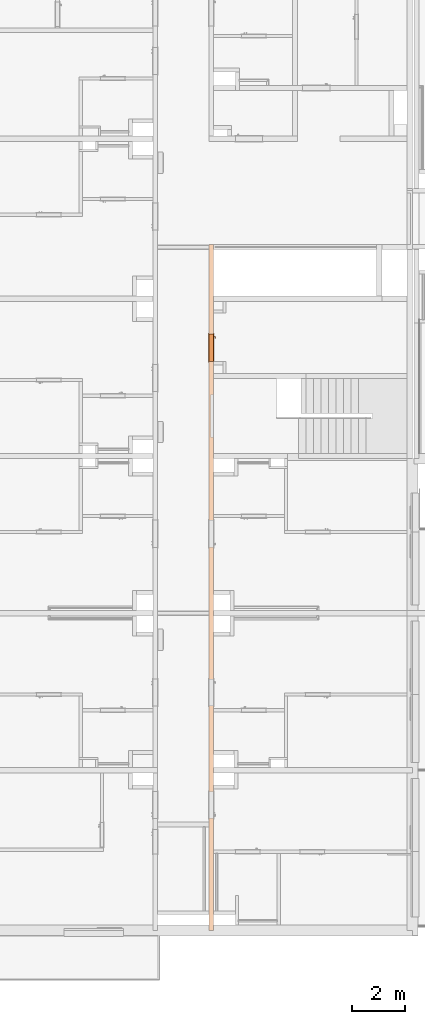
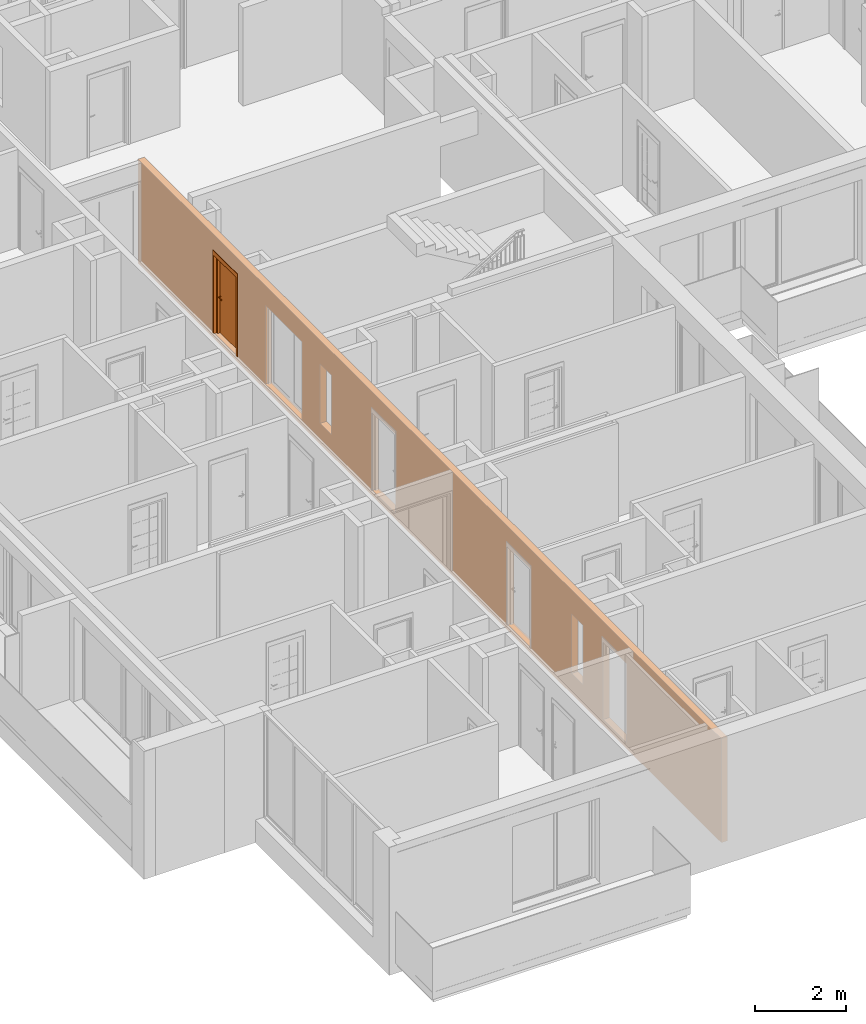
# One storey, part 12 of 67: 1 proxy, 7 openings, plus 1 element that does not belong to this part.
"""IFC2X3 building model written with IfcOpenShell, lengths in millimetres."""

from ifc_helpers import new_model, entity, si_unit, converted_unit, derived_unit, money_unit, direction, frame, origin_with_axes, origin_2d_with_axis, place, context, subcontext, project, spatial, rectangle, extrude, open_shell, faceted_brep, surface_model, source, transform, mapped, material, type_object, element, fill, save


model = new_model("IFC2X3")

# Units and contexts
model_context = context("Model", 3, precision=0.01, world=origin_with_axes(), true_north=direction((0.34421633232, 0.938890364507)))
body_context = subcontext(model_context, "Body", "Model", "MODEL_VIEW")
ifc_project = project(units=[si_unit("LENGTHUNIT", "METRE", prefix="MILLI"), si_unit("AREAUNIT", "SQUARE_METRE"), si_unit("VOLUMEUNIT", "CUBIC_METRE"), converted_unit("PLANEANGLEUNIT", "DEGREE", entity("IfcPlaneAngleMeasure", 0.0174532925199), si_unit("PLANEANGLEUNIT", "RADIAN"), dimensions=[0, 0, 0, 0, 0, 0, 0]), si_unit("SOLIDANGLEUNIT", "STERADIAN"), money_unit("USD"), converted_unit("TIMEUNIT", "Year", entity("IfcTimeMeasure", 31556926.0), si_unit("TIMEUNIT", "SECOND"), dimensions=[0, 0, 1, 0, 0, 0, 0]), si_unit("MASSUNIT", "GRAM", prefix="KILO"), si_unit("THERMODYNAMICTEMPERATUREUNIT", "DEGREE_CELSIUS"), si_unit("LUMINOUSINTENSITYUNIT", "LUMEN"), si_unit("ENERGYUNIT", "JOULE", prefix="MEGA"), derived_unit("THERMALCONDUCTANCEUNIT", [(si_unit("POWERUNIT", "WATT"), 1), (si_unit("LENGTHUNIT", "METRE"), -1), (si_unit("THERMODYNAMICTEMPERATUREUNIT", "KELVIN"), -1)]), derived_unit("SPECIFICHEATCAPACITYUNIT", [(si_unit("ENERGYUNIT", "JOULE"), 1), (si_unit("MASSUNIT", "GRAM", prefix="KILO"), -1), (si_unit("THERMODYNAMICTEMPERATUREUNIT", "KELVIN"), -1)]), derived_unit("MASSDENSITYUNIT", [(si_unit("MASSUNIT", "GRAM", prefix="KILO"), 1), (si_unit("VOLUMEUNIT", "CUBIC_METRE"), -1)])], contexts=[model_context])

# Site, building, storey
site_placement = place(None, origin_with_axes())
site = spatial("IfcSite", under=ifc_project, at=site_placement, Name="USTRONIE MORSKIE", CompositionType="ELEMENT")
building_placement = place(site_placement, origin_with_axes())
building = spatial("IfcBuilding", under=site, at=building_placement, Name="Budynek", CompositionType="ELEMENT")
storey_placement = place(building_placement, frame((0.0, 0.0, 4000.0), z_axis=(0.0, 0.0, 1.0), x_axis=(1.0, 0.0, 0.0)))
storey = spatial("IfcBuildingStorey", under=building, at=storey_placement, Name="PIĘTRO 1", CompositionType="ELEMENT", Elevation=4000.0)

# Proxies, openings
ifc_material = material(Name="Beton konstrukcyjny B25")
building_element_proxy_type_1 = type_object("IfcBuildingElementProxyType", Name="Beton konstrukcyjny B25 160", PredefinedType="NOTDEFINED")
proxy_1_placement = place(storey_placement, frame((359617.920919, 734831.198985, -160.0), z_axis=(0.0, 0.0, 1.0), x_axis=(0.0, -1.0, 0.0)))
proxy_1 = element("IfcBuildingElementProxy", 1, at=proxy_1_placement, inside=storey, type_object=building_element_proxy_type_1, material=ifc_material, Name="SW-01", context=body_context, shape_type="Brep", body=[
    faceted_brep([(0.0, 80.0, 0.0), (25729.9999491, 80.0, 0.0), (25729.9999491, -80.0, 0.0), (0.0, -80.0, 0.0), (0.0, 80.0, 2800.0), (25729.9999491, 80.0, 2800.0), (25729.9999491, -80.0, 2800.0), (0.0, -80.0, 2800.0)], [[[0, 1, 2, 3]], [[4, 5, 1, 0]], [[6, 2, 1, 5]], [[3, 2, 6, 7]], [[7, 4, 0, 3]], [[7, 6, 5, 4]]]),
])
opening_1_placement = place(proxy_1_placement, frame((16809.9552113, 0.0, 160.0), z_axis=(0.0, 0.0, 1.0), x_axis=(1.0, 0.0, 0.0)))
element("IfcOpeningElement", 2, at=opening_1_placement, cuts=proxy_1, Name="Dw.1", context=body_context, shape_type="SweptSolid", body=[
    extrude(rectangle(XDim=1020.0, YDim=2120.0, at=origin_2d_with_axis()), frame((0.0, -160.0, 1060.0), z_axis=(0.0, 1.0, 0.0), x_axis=(1.0, 0.0, 0.0)), (0.0, 0.0, 1.0), 480.0),
    extrude(rectangle(XDim=1094.0, YDim=2227.0, at=origin_2d_with_axis()), frame((0.0, -80.0, 1113.5), z_axis=(0.0, 1.0, 0.0), x_axis=(1.0, 0.0, 0.0)), (0.0, 0.0, -1.0), 160.0),
    extrude(rectangle(XDim=1094.0, YDim=2227.0, at=origin_2d_with_axis()), frame((0.0, 80.0, 1113.5), z_axis=(0.0, -1.0, 0.0), x_axis=(1.0, 0.0, 0.0)), (0.0, 0.0, -1.0), 160.0),
])
opening_2_placement = place(proxy_1_placement, frame((21029.9999495, 0.0, 160.0), z_axis=(0.0, 0.0, 1.0), x_axis=(1.0, 0.0, 0.0)))
element("IfcOpeningElement", 3, at=opening_2_placement, cuts=proxy_1, Name="Dw.1", context=body_context, shape_type="SweptSolid", body=[
    extrude(rectangle(XDim=1020.0, YDim=2120.0, at=origin_2d_with_axis()), frame((0.0, -160.0, 1060.0), z_axis=(0.0, -1.0, 0.0), x_axis=(-1.0, 0.0, 0.0)), (0.0, 0.0, -1.0), 480.0),
    extrude(rectangle(XDim=1094.0, YDim=2227.0, at=origin_2d_with_axis()), frame((0.0, -80.0, 1113.5), z_axis=(0.0, -1.0, 0.0), x_axis=(-1.0, 0.0, 0.0)), (0.0, 0.0, 1.0), 160.0),
    extrude(rectangle(XDim=1094.0, YDim=2227.0, at=origin_2d_with_axis()), frame((0.0, 80.0, 1113.5), z_axis=(0.0, 1.0, 0.0), x_axis=(-1.0, 0.0, 0.0)), (0.0, 0.0, 1.0), 160.0),
])
opening_3_placement = place(proxy_1_placement, frame((3869.9999533, 0.0, 160.0), z_axis=(0.0, 0.0, 1.0), x_axis=(1.0, 0.0, 0.0)))
opening_3 = element("IfcOpeningElement", 4, at=opening_3_placement, cuts=proxy_1, Name="Dw.2", context=body_context, shape_type="SweptSolid", body=[
    extrude(rectangle(XDim=1020.0, YDim=2120.0, at=origin_2d_with_axis()), frame((0.0, -160.0, 1060.0), z_axis=(0.0, 1.0, 0.0), x_axis=(1.0, 0.0, 0.0)), (0.0, 0.0, 1.0), 480.0),
    extrude(rectangle(XDim=1094.0, YDim=2227.0, at=origin_2d_with_axis()), frame((0.0, -80.0, 1113.5), z_axis=(0.0, 1.0, 0.0), x_axis=(1.0, 0.0, 0.0)), (0.0, 0.0, -1.0), 160.0),
    extrude(rectangle(XDim=1094.0, YDim=2227.0, at=origin_2d_with_axis()), frame((0.0, 80.0, 1113.5), z_axis=(0.0, -1.0, 0.0), x_axis=(1.0, 0.0, 0.0)), (0.0, 0.0, -1.0), 160.0),
])
opening_4_placement = place(proxy_1_placement, frame((6429.99994909, 0.0, 160.0), z_axis=(0.0, 0.0, 1.0), x_axis=(1.0, 0.0, 0.0)))
element("IfcOpeningElement", 5, at=opening_4_placement, cuts=proxy_1, Name="D2", context=body_context, shape_type="SweptSolid", body=[
    extrude(rectangle(XDim=1620.0, YDim=2120.0, at=origin_2d_with_axis()), frame((0.0, -160.0, 1060.0), z_axis=(0.0, -1.0, 0.0), x_axis=(-1.0, 0.0, 0.0)), (0.0, 0.0, -1.0), 480.0),
])
opening_5_placement = place(proxy_1_placement, frame((10850.0446869, 0.0, 160.0), z_axis=(0.0, 0.0, 1.0), x_axis=(1.0, 0.0, 0.0)))
element("IfcOpeningElement", 6, at=opening_5_placement, cuts=proxy_1, Name="Dw.1", context=body_context, shape_type="SweptSolid", body=[
    extrude(rectangle(XDim=1020.0, YDim=2120.0, at=origin_2d_with_axis()), frame((0.0, -160.0, 1060.0), z_axis=(0.0, -1.0, 0.0), x_axis=(-1.0, 0.0, 0.0)), (0.0, 0.0, -1.0), 480.0),
    extrude(rectangle(XDim=1094.0, YDim=2227.0, at=origin_2d_with_axis()), frame((0.0, -80.0, 1113.5), z_axis=(0.0, -1.0, 0.0), x_axis=(-1.0, 0.0, 0.0)), (0.0, 0.0, 1.0), 160.0),
    extrude(rectangle(XDim=1094.0, YDim=2227.0, at=origin_2d_with_axis()), frame((0.0, 80.0, 1113.5), z_axis=(0.0, 1.0, 0.0), x_axis=(-1.0, 0.0, 0.0)), (0.0, 0.0, 1.0), 160.0),
])
opening_6_placement = place(proxy_1_placement, frame((8280.00085724, 0.0, 560.0), z_axis=(0.0, 0.0, 1.0), x_axis=(1.0, 0.0, 0.0)))
element("IfcOpeningElement", 7, at=opening_6_placement, cuts=proxy_1, Name="R.01", context=body_context, shape_type="SweptSolid", body=[
    extrude(rectangle(XDim=500.001816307, YDim=1600.0, at=origin_2d_with_axis()), frame((0.0, -80.0, 800.0), z_axis=(0.0, 1.0, 0.0), x_axis=(1.0, 0.0, 0.0)), (0.0, 0.0, -1.0), 160.0),
    extrude(rectangle(XDim=500.001816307, YDim=1600.0, at=origin_2d_with_axis()), frame((0.0, -80.0, 800.0), z_axis=(0.0, -1.0, 0.0), x_axis=(1.0, 0.0, 0.0)), (0.0, 0.0, -1.0), 160.0),
])
opening_7_placement = place(proxy_1_placement, frame((19380.0004126, 0.0, 560.0), z_axis=(0.0, 0.0, 1.0), x_axis=(1.0, 0.0, 0.0)))
element("IfcOpeningElement", 8, at=opening_7_placement, cuts=proxy_1, Name="R.01", context=body_context, shape_type="SweptSolid", body=[
    extrude(rectangle(XDim=500.001816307, YDim=1600.0, at=origin_2d_with_axis()), frame((0.0, -80.0, 800.0), z_axis=(0.0, 1.0, 0.0), x_axis=(1.0, 0.0, 0.0)), (0.0, 0.0, -1.0), 160.0),
    extrude(rectangle(XDim=500.001816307, YDim=1600.0, at=origin_2d_with_axis()), frame((0.0, -80.0, 800.0), z_axis=(0.0, -1.0, 0.0), x_axis=(1.0, 0.0, 0.0)), (0.0, 0.0, -1.0), 160.0),
])
building_element_proxy_type_2 = type_object("IfcBuildingElementProxyType", Name="Drzwi 23", PredefinedType="NOTDEFINED")
shared_shape = source(origin_with_axes(), body_context, "Body", "SurfaceModel", [
    faceted_brep([(-510.0, -115.0, 0.0), (-485.0, -115.0, 0.0), (-485.0, -160.0, 0.0), (-510.0, -160.0, 0.0), (-510.0, -115.0, 2120.0), (-485.0, -115.0, 2095.0), (-485.0, -160.0, 2095.0), (-510.0, -160.0, 2120.0)], [[[0, 1, 2, 3]], [[0, 4, 5, 1]], [[1, 5, 6, 2]], [[3, 2, 6, 7]], [[4, 0, 3, 7]], [[5, 4, 7, 6]]]),
    faceted_brep([(510.0, -115.0, 2120.0), (485.0, -115.0, 2095.0), (485.0, -160.0, 2095.0), (510.0, -160.0, 2120.0), (510.0, -115.0, 0.0), (485.0, -115.0, 0.0), (485.0, -160.0, 0.0), (510.0, -160.0, 0.0)], [[[0, 1, 2, 3]], [[0, 4, 5, 1]], [[1, 5, 6, 2]], [[3, 2, 6, 7]], [[4, 0, 3, 7]], [[5, 4, 7, 6]]]),
    faceted_brep([(-485.0, -115.0, 2095.0), (485.0, -115.0, 2095.0), (485.0, -160.0, 2095.0), (-485.0, -160.0, 2095.0), (-510.0, -115.0, 2120.0), (510.0, -115.0, 2120.0), (510.0, -160.0, 2120.0), (-510.0, -160.0, 2120.0)], [[[0, 1, 2, 3]], [[0, 4, 5, 1]], [[1, 5, 6, 2]], [[3, 2, 6, 7]], [[4, 0, 3, 7]], [[5, 4, 7, 6]]]),
    faceted_brep([(-547.0, -179.0, 0.0), (-547.0, -160.0, 0.0), (-497.0, -160.0, 0.0), (-497.0, -179.0, 0.0), (-547.0, -179.0, 2227.0), (-547.0, -160.0, 2227.0), (-497.0, -160.0, 2107.0), (-497.0, -179.0, 2107.0)], [[[0, 1, 2, 3]], [[4, 5, 1, 0]], [[1, 5, 6, 2]], [[3, 2, 6, 7]], [[0, 3, 7, 4]], [[7, 6, 5, 4]]]),
    faceted_brep([(547.0, -179.0, 2227.0), (547.0, -160.0, 2227.0), (497.0, -160.0, 2107.0), (497.0, -179.0, 2107.0), (547.0, -179.0, 0.0), (547.0, -160.0, 0.0), (497.0, -160.0, 0.0), (497.0, -179.0, 0.0)], [[[0, 1, 2, 3]], [[4, 5, 1, 0]], [[1, 5, 6, 2]], [[3, 2, 6, 7]], [[0, 3, 7, 4]], [[7, 6, 5, 4]]]),
    faceted_brep([(-547.0, -179.0, 2227.0), (-547.0, -160.0, 2227.0), (-497.0, -160.0, 2107.0), (-497.0, -179.0, 2107.0), (547.0, -179.0, 2227.0), (547.0, -160.0, 2227.0), (497.0, -160.0, 2107.0), (497.0, -179.0, 2107.0)], [[[0, 1, 2, 3]], [[4, 5, 1, 0]], [[1, 5, 6, 2]], [[3, 2, 6, 7]], [[0, 3, 7, 4]], [[7, 6, 5, 4]]]),
    faceted_brep([(-547.0, 19.0, 0.0), (-497.0, 19.0, 0.0), (-497.0, 0.0, 0.0), (-547.0, 0.0, 0.0), (-547.0, 19.0, 2227.0), (-497.0, 19.0, 2107.0), (-497.0, 0.0, 2107.0), (-547.0, 0.0, 2227.0)], [[[0, 1, 2, 3]], [[0, 4, 5, 1]], [[1, 5, 6, 2]], [[3, 2, 6, 7]], [[4, 0, 3, 7]], [[5, 4, 7, 6]]]),
    faceted_brep([(547.0, 19.0, 2227.0), (497.0, 19.0, 2107.0), (497.0, 0.0, 2107.0), (547.0, 0.0, 2227.0), (547.0, 19.0, 0.0), (497.0, 19.0, 0.0), (497.0, 0.0, 0.0), (547.0, 0.0, 0.0)], [[[0, 1, 2, 3]], [[0, 4, 5, 1]], [[1, 5, 6, 2]], [[3, 2, 6, 7]], [[4, 0, 3, 7]], [[5, 4, 7, 6]]]),
    faceted_brep([(-547.0, 19.0, 2227.0), (-497.0, 19.0, 2107.0), (-497.0, 0.0, 2107.0), (-547.0, 0.0, 2227.0), (547.0, 19.0, 2227.0), (497.0, 19.0, 2107.0), (497.0, 0.0, 2107.0), (547.0, 0.0, 2227.0)], [[[0, 1, 2, 3]], [[0, 4, 5, 1]], [[1, 5, 6, 2]], [[3, 2, 6, 7]], [[4, 0, 3, 7]], [[5, 4, 7, 6]]]),
    faceted_brep([(-450.0, -40.0, 0.0), (-450.0, -40.0, 2050.0), (-450.0, -115.0, 2050.0), (-450.0, -115.0, 0.0), (-462.0, -40.0, 2050.0), (-462.0, -40.0, 0.0), (-462.0, 0.0, 2050.0), (-510.0, 0.0, 2050.0), (-510.0, -115.0, 2050.0), (-510.0, -115.0, 0.0), (-510.0, 0.0, 0.0), (-462.0, 0.0, 0.0)], [[[0, 1, 2, 3]], [[4, 1, 0, 5]], [[4, 6, 7, 8, 2, 1]], [[3, 2, 8, 9]], [[5, 0, 3, 9, 10, 11]], [[6, 4, 5, 11]], [[6, 11, 10, 7]], [[10, 9, 8, 7]]]),
    faceted_brep([(462.0, -40.0, 2050.0), (450.0, -40.0, 2050.0), (450.0, -115.0, 2050.0), (510.0, -115.0, 2050.0), (510.0, 0.0, 2050.0), (462.0, 0.0, 2050.0), (462.0, -40.0, 0.0), (450.0, -40.0, 0.0), (450.0, -115.0, 0.0), (510.0, -115.0, 0.0), (510.0, 0.0, 0.0), (462.0, 0.0, 0.0)], [[[0, 1, 2, 3, 4, 5]], [[1, 0, 6, 7]], [[1, 7, 8, 2]], [[3, 2, 8, 9]], [[4, 3, 9, 10]], [[11, 5, 4, 10]], [[0, 5, 11, 6]], [[6, 11, 10, 9, 8, 7]]]),
    faceted_brep([(-462.0, 0.0, 2062.0), (-462.0, 0.0, 2050.0), (-510.0, 0.0, 2050.0), (-510.0, 0.0, 2120.0), (510.0, 0.0, 2120.0), (510.0, 0.0, 2050.0), (462.0, 0.0, 2050.0), (462.0, 0.0, 2062.0), (-462.0, -40.0, 2062.0), (-462.0, -40.0, 2050.0), (-450.0, -40.0, 2050.0), (-450.0, -115.0, 2050.0), (-510.0, -115.0, 2050.0), (-510.0, -115.0, 2120.0), (510.0, -115.0, 2120.0), (510.0, -115.0, 2050.0), (462.0, -40.0, 2050.0), (450.0, -115.0, 2050.0), (450.0, -40.0, 2050.0), (462.0, -40.0, 2062.0)], [[[0, 1, 2, 3, 4, 5, 6, 7]], [[1, 0, 8, 9]], [[9, 10, 11, 12, 2, 1]], [[2, 12, 13, 3]], [[3, 13, 14, 4]], [[4, 14, 15, 5]], [[16, 6, 5, 15, 17, 18]], [[7, 6, 16, 19]], [[0, 7, 19, 8]], [[16, 18, 10, 9, 8, 19]], [[10, 18, 17, 11]], [[17, 15, 14, 13, 12, 11]]]),
    faceted_brep([(-440.5, -40.0, 1060.0), (-440.5, -43.0, 1060.0), (-383.5, -43.0, 1060.0), (-383.5, -40.0, 1060.0), (-440.5, -40.0, 870.0), (-440.5, -43.0, 870.0), (-383.5, -43.0, 870.0), (-383.5, -40.0, 870.0)], [[[0, 1, 2, 3]], [[4, 5, 1, 0]], [[1, 5, 6, 2]], [[3, 2, 6, 7]], [[0, 3, 7, 4]], [[7, 6, 5, 4]]]),
    faceted_brep([(-412.0, -104.0, 990.0), (-412.0, -111.0, 990.0), (-417.0, -111.0, 991.339745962), (-417.0, -104.0, 991.339745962), (-387.0, -104.0, 990.0), (-387.0, -111.0, 990.0), (-387.0, -111.0, 1010.0), (-412.0, -111.0, 1010.0), (-417.0, -111.0, 1008.66025404), (-420.660254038, -111.0, 1005.0), (-422.0, -111.0, 1000.0), (-420.660254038, -111.0, 995.0), (-420.660254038, -104.0, 995.0), (-422.0, -104.0, 1000.0), (-420.660254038, -104.0, 1005.0), (-417.0, -104.0, 1008.66025404), (-412.0, -104.0, 1010.0), (-387.0, -104.0, 1010.0)], [[[0, 1, 2, 3]], [[4, 5, 1, 0]], [[1, 5, 6, 7, 8, 9, 10, 11, 2]], [[3, 2, 11, 12]], [[0, 3, 12, 13, 14, 15, 16, 17, 4]], [[17, 6, 5, 4]], [[16, 7, 6, 17]], [[15, 8, 7, 16]], [[14, 9, 8, 15]], [[13, 10, 9, 14]], [[12, 11, 10, 13]]]),
    surface_model("IfcShellBasedSurfaceModel", [(-387.0, -104.0, 1010.0), (-373.596090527, -111.0, 1009.60730092), (-373.901717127, -104.0, 1009.60730092), (-387.0, -111.0, 1010.0), (-346.890283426, -108.663544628, 1008.82190275), (-373.901717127, -104.0, 990.392699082), (-387.0, -104.0, 990.0), (-387.0, -111.0, 990.0), (-373.596090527, -111.0, 990.392699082), (-346.890283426, -108.663544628, 991.178097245), (-347.804837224, -101.716818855, 1008.82190275), (-347.804837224, -101.716818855, 991.178097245), (-320.489735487, -104.008415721, 991.963495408), (-320.489735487, -104.008415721, 1008.03650459), (-322.006256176, -97.1678329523, 1008.03650459), (-322.006256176, -97.1678329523, 991.963495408), (-294.59537082, -97.0700416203, 992.748893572), (-294.59537082, -97.0700416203, 1007.25110643), (-296.702316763, -90.3876628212, 1007.25110643), (-296.702316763, -90.3876628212, 992.748893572), (-286.538795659, -94.1376880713, 993.0), (-286.538795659, -94.1376880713, 1007.0), (-288.829442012, -87.5221707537, 1007.0), (-288.829442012, -87.5221707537, 993.0)], [open_shell([[[0, 1, 2]], [[0, 3, 1]], [[2, 1, 4]], [[0, 2, 5, 6]], [[3, 7, 8, 1]], [[1, 8, 9, 4]], [[2, 4, 10]], [[2, 10, 11, 5]], [[5, 7, 6]], [[5, 8, 7]], [[11, 9, 8]], [[4, 9, 12, 13]], [[10, 4, 13]], [[10, 14, 15, 11]], [[11, 8, 5]], [[15, 9, 11]], [[15, 12, 9]], [[13, 12, 16, 17]], [[10, 13, 14]], [[14, 18, 19, 15]], [[19, 12, 15]], [[19, 16, 12]], [[17, 16, 20, 21]], [[14, 13, 17]], [[14, 17, 18]], [[18, 22, 23, 19]], [[23, 16, 19]], [[23, 20, 16]], [[22, 21, 20, 23]], [[18, 17, 21]], [[18, 21, 22]]])]),
    faceted_brep([(-401.607695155, -53.0, 994.0), (-400.741669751, -43.0, 993.5), (-399.0, -43.0, 1000.0), (-400.0, -53.0, 1000.0), (-406.0, -53.0, 989.607695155), (-405.5, -43.0, 988.741669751), (-412.0, -43.0, 987.0), (-418.5, -43.0, 988.741669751), (-423.258330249, -43.0, 993.5), (-425.0, -43.0, 1000.0), (-423.258330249, -43.0, 1006.5), (-418.5, -43.0, 1011.25833025), (-412.0, -43.0, 1013.0), (-405.5, -43.0, 1011.25833025), (-400.741669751, -43.0, 1006.5), (-401.607695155, -53.0, 1006.0), (-406.0, -53.0, 1010.39230485), (-412.0, -53.0, 1012.0), (-418.0, -53.0, 1010.39230485), (-422.392304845, -53.0, 1006.0), (-424.0, -53.0, 1000.0), (-422.392304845, -53.0, 994.0), (-418.0, -53.0, 989.607695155), (-412.0, -53.0, 988.0)], [[[0, 1, 2, 3]], [[4, 5, 1, 0]], [[2, 1, 5, 6, 7, 8, 9, 10, 11, 12, 13, 14]], [[3, 2, 14, 15]], [[3, 15, 16, 17, 18, 19, 20, 21, 22, 23, 4, 0]], [[23, 6, 5, 4]], [[22, 7, 6, 23]], [[21, 8, 7, 22]], [[20, 9, 8, 21]], [[19, 10, 9, 20]], [[18, 11, 10, 19]], [[17, 12, 11, 18]], [[16, 13, 12, 17]], [[15, 14, 13, 16]]]),
    faceted_brep([(-394.679491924, -47.0, 895.0), (-392.947441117, -43.0, 894.0), (-390.0, -43.0, 905.0), (-392.0, -47.0, 905.0), (-402.0, -47.0, 887.679491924), (-401.0, -43.0, 885.947441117), (-412.0, -43.0, 883.0), (-423.0, -43.0, 885.947441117), (-431.052558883, -43.0, 894.0), (-434.0, -43.0, 905.0), (-431.052558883, -43.0, 916.0), (-423.0, -43.0, 924.052558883), (-412.0, -43.0, 927.0), (-401.0, -43.0, 924.052558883), (-392.947441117, -43.0, 916.0), (-394.679491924, -47.0, 915.0), (-402.0, -47.0, 922.320508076), (-412.0, -47.0, 925.0), (-422.0, -47.0, 922.320508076), (-429.320508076, -47.0, 915.0), (-432.0, -47.0, 905.0), (-429.320508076, -47.0, 895.0), (-422.0, -47.0, 887.679491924), (-412.0, -47.0, 885.0)], [[[0, 1, 2, 3]], [[4, 5, 1, 0]], [[2, 1, 5, 6, 7, 8, 9, 10, 11, 12, 13, 14]], [[3, 2, 14, 15]], [[3, 15, 16, 17, 18, 19, 20, 21, 22, 23, 4, 0]], [[23, 6, 5, 4]], [[22, 7, 6, 23]], [[21, 8, 7, 22]], [[20, 9, 8, 21]], [[19, 10, 9, 20]], [[18, 11, 10, 19]], [[17, 12, 11, 18]], [[16, 13, 12, 17]], [[15, 14, 13, 16]]]),
    faceted_brep([(-407.050252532, -49.0, 909.050252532), (-406.343145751, -47.0, 908.343145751), (-404.0, -47.0, 914.0), (-405.0, -49.0, 914.0), (-412.0, -49.0, 907.0), (-412.0, -47.0, 906.0), (-417.656854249, -47.0, 908.343145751), (-420.0, -47.0, 914.0), (-417.656854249, -47.0, 919.656854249), (-412.0, -47.0, 922.0), (-406.343145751, -47.0, 919.656854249), (-407.050252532, -49.0, 918.949747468), (-412.0, -49.0, 921.0), (-416.949747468, -49.0, 918.949747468), (-419.0, -49.0, 914.0), (-416.949747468, -49.0, 909.050252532)], [[[0, 1, 2, 3]], [[4, 5, 1, 0]], [[2, 1, 5, 6, 7, 8, 9, 10]], [[3, 2, 10, 11]], [[3, 11, 12, 13, 14, 15, 4, 0]], [[15, 6, 5, 4]], [[14, 7, 6, 15]], [[13, 8, 7, 14]], [[12, 9, 8, 13]], [[11, 10, 9, 12]]]),
    faceted_brep([(-412.0, -53.0, 1010.0), (-412.0, -104.0, 1010.0), (-407.0, -104.0, 1008.66025404), (-407.0, -53.0, 1008.66025404), (-417.0, -53.0, 1008.66025404), (-417.0, -104.0, 1008.66025404), (-420.660254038, -104.0, 1005.0), (-422.0, -104.0, 1000.0), (-420.660254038, -104.0, 995.0), (-417.0, -104.0, 991.339745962), (-412.0, -104.0, 990.0), (-407.0, -104.0, 991.339745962), (-403.339745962, -104.0, 995.0), (-402.0, -104.0, 1000.0), (-403.339745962, -104.0, 1005.0), (-403.339745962, -53.0, 1005.0), (-402.0, -53.0, 1000.0), (-403.339745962, -53.0, 995.0), (-407.0, -53.0, 991.339745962), (-412.0, -53.0, 990.0), (-417.0, -53.0, 991.339745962), (-420.660254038, -53.0, 995.0), (-422.0, -53.0, 1000.0), (-420.660254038, -53.0, 1005.0)], [[[0, 1, 2, 3]], [[4, 5, 1, 0]], [[1, 5, 6, 7, 8, 9, 10, 11, 12, 13, 14, 2]], [[3, 2, 14, 15]], [[0, 3, 15, 16, 17, 18, 19, 20, 21, 22, 23, 4]], [[23, 6, 5, 4]], [[22, 7, 6, 23]], [[21, 8, 7, 22]], [[20, 9, 8, 21]], [[19, 10, 9, 20]], [[18, 11, 10, 19]], [[17, 12, 11, 18]], [[16, 13, 12, 17]], [[15, 14, 13, 16]]]),
    faceted_brep([(-440.5, 0.0, 1060.0), (-383.5, 0.0, 1060.0), (-383.5, 3.0, 1060.0), (-440.5, 3.0, 1060.0), (-440.5, 0.0, 870.0), (-383.5, 0.0, 870.0), (-383.5, 3.0, 870.0), (-440.5, 3.0, 870.0)], [[[0, 1, 2, 3]], [[0, 4, 5, 1]], [[1, 5, 6, 2]], [[3, 2, 6, 7]], [[4, 0, 3, 7]], [[5, 4, 7, 6]]]),
    faceted_brep([(-412.0, 64.0, 990.0), (-417.0, 64.0, 991.339745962), (-417.0, 71.0, 991.339745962), (-412.0, 71.0, 990.0), (-387.0, 64.0, 990.0), (-387.0, 64.0, 1010.0), (-412.0, 64.0, 1010.0), (-417.0, 64.0, 1008.66025404), (-420.660254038, 64.0, 1005.0), (-422.0, 64.0, 1000.0), (-420.660254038, 64.0, 995.0), (-420.660254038, 71.0, 995.0), (-422.0, 71.0, 1000.0), (-420.660254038, 71.0, 1005.0), (-417.0, 71.0, 1008.66025404), (-412.0, 71.0, 1010.0), (-387.0, 71.0, 1010.0), (-387.0, 71.0, 990.0)], [[[0, 1, 2, 3]], [[0, 4, 5, 6, 7, 8, 9, 10, 1]], [[1, 10, 11, 2]], [[3, 2, 11, 12, 13, 14, 15, 16, 17]], [[4, 0, 3, 17]], [[5, 4, 17, 16]], [[6, 5, 16, 15]], [[7, 6, 15, 14]], [[8, 7, 14, 13]], [[9, 8, 13, 12]], [[10, 9, 12, 11]]]),
    surface_model("IfcShellBasedSurfaceModel", [(-387.0, 64.0, 1010.0), (-373.901717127, 64.0, 1009.60730092), (-373.596090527, 71.0, 1009.60730092), (-387.0, 64.0, 990.0), (-373.901717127, 64.0, 990.392699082), (-346.890283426, 68.6635446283, 1008.82190275), (-387.0, 71.0, 1010.0), (-387.0, 71.0, 990.0), (-347.804837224, 61.716818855, 991.178097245), (-347.804837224, 61.716818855, 1008.82190275), (-346.890283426, 68.6635446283, 991.178097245), (-373.596090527, 71.0, 990.392699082), (-322.006256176, 57.1678329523, 991.963495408), (-322.006256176, 57.1678329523, 1008.03650459), (-320.489735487, 64.0084157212, 1008.03650459), (-320.489735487, 64.0084157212, 991.963495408), (-296.702316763, 50.3876628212, 992.748893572), (-296.702316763, 50.3876628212, 1007.25110643), (-294.59537082, 57.0700416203, 1007.25110643), (-294.59537082, 57.0700416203, 992.748893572), (-288.829442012, 47.5221707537, 993.0), (-288.829442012, 47.5221707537, 1007.0), (-286.538795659, 54.1376880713, 1007.0), (-286.538795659, 54.1376880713, 993.0)], [open_shell([[[0, 1, 2]], [[0, 3, 4, 1]], [[1, 5, 2]], [[0, 2, 6]], [[4, 3, 7]], [[1, 4, 8, 9]], [[1, 9, 5]], [[2, 5, 10, 11]], [[6, 2, 11, 7]], [[4, 7, 11]], [[8, 4, 11]], [[9, 8, 12, 13]], [[9, 14, 5]], [[5, 14, 15, 10]], [[8, 11, 10]], [[12, 8, 10]], [[13, 12, 16, 17]], [[9, 13, 14]], [[14, 18, 19, 15]], [[12, 10, 15]], [[16, 12, 15]], [[17, 16, 20, 21]], [[13, 17, 18]], [[13, 18, 14]], [[18, 22, 23, 19]], [[16, 15, 19]], [[20, 16, 19]], [[21, 20, 23, 22]], [[17, 21, 22]], [[17, 22, 18]], [[20, 19, 23]]])]),
    faceted_brep([(-401.607695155, 13.0, 994.0), (-400.0, 13.0, 1000.0), (-399.0, 3.0, 1000.0), (-400.741669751, 3.0, 993.5), (-406.0, 13.0, 989.607695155), (-412.0, 13.0, 988.0), (-418.0, 13.0, 989.607695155), (-422.392304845, 13.0, 994.0), (-424.0, 13.0, 1000.0), (-422.392304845, 13.0, 1006.0), (-418.0, 13.0, 1010.39230485), (-412.0, 13.0, 1012.0), (-406.0, 13.0, 1010.39230485), (-401.607695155, 13.0, 1006.0), (-400.741669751, 3.0, 1006.5), (-405.5, 3.0, 1011.25833025), (-412.0, 3.0, 1013.0), (-418.5, 3.0, 1011.25833025), (-423.258330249, 3.0, 1006.5), (-425.0, 3.0, 1000.0), (-423.258330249, 3.0, 993.5), (-418.5, 3.0, 988.741669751), (-412.0, 3.0, 987.0), (-405.5, 3.0, 988.741669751)], [[[0, 1, 2, 3]], [[1, 0, 4, 5, 6, 7, 8, 9, 10, 11, 12, 13]], [[1, 13, 14, 2]], [[2, 14, 15, 16, 17, 18, 19, 20, 21, 22, 23, 3]], [[4, 0, 3, 23]], [[5, 4, 23, 22]], [[6, 5, 22, 21]], [[7, 6, 21, 20]], [[8, 7, 20, 19]], [[9, 8, 19, 18]], [[10, 9, 18, 17]], [[11, 10, 17, 16]], [[12, 11, 16, 15]], [[13, 12, 15, 14]]]),
    faceted_brep([(-394.679491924, 7.0, 895.0), (-392.0, 7.0, 905.0), (-390.0, 3.0, 905.0), (-392.947441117, 3.0, 894.0), (-402.0, 7.0, 887.679491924), (-412.0, 7.0, 885.0), (-422.0, 7.0, 887.679491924), (-429.320508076, 7.0, 895.0), (-432.0, 7.0, 905.0), (-429.320508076, 7.0, 915.0), (-422.0, 7.0, 922.320508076), (-412.0, 7.0, 925.0), (-402.0, 7.0, 922.320508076), (-394.679491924, 7.0, 915.0), (-392.947441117, 3.0, 916.0), (-401.0, 3.0, 924.052558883), (-412.0, 3.0, 927.0), (-423.0, 3.0, 924.052558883), (-431.052558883, 3.0, 916.0), (-434.0, 3.0, 905.0), (-431.052558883, 3.0, 894.0), (-423.0, 3.0, 885.947441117), (-412.0, 3.0, 883.0), (-401.0, 3.0, 885.947441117)], [[[0, 1, 2, 3]], [[1, 0, 4, 5, 6, 7, 8, 9, 10, 11, 12, 13]], [[1, 13, 14, 2]], [[2, 14, 15, 16, 17, 18, 19, 20, 21, 22, 23, 3]], [[4, 0, 3, 23]], [[5, 4, 23, 22]], [[6, 5, 22, 21]], [[7, 6, 21, 20]], [[8, 7, 20, 19]], [[9, 8, 19, 18]], [[10, 9, 18, 17]], [[11, 10, 17, 16]], [[12, 11, 16, 15]], [[13, 12, 15, 14]]]),
    faceted_brep([(-407.050252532, 9.0, 909.050252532), (-405.0, 9.0, 914.0), (-404.0, 7.0, 914.0), (-406.343145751, 7.0, 908.343145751), (-412.0, 9.0, 907.0), (-416.949747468, 9.0, 909.050252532), (-419.0, 9.0, 914.0), (-416.949747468, 9.0, 918.949747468), (-412.0, 9.0, 921.0), (-407.050252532, 9.0, 918.949747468), (-406.343145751, 7.0, 919.656854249), (-412.0, 7.0, 922.0), (-417.656854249, 7.0, 919.656854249), (-420.0, 7.0, 914.0), (-417.656854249, 7.0, 908.343145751), (-412.0, 7.0, 906.0)], [[[0, 1, 2, 3]], [[1, 0, 4, 5, 6, 7, 8, 9]], [[1, 9, 10, 2]], [[2, 10, 11, 12, 13, 14, 15, 3]], [[4, 0, 3, 15]], [[5, 4, 15, 14]], [[6, 5, 14, 13]], [[7, 6, 13, 12]], [[8, 7, 12, 11]], [[9, 8, 11, 10]]]),
    faceted_brep([(-412.0, 13.0, 1010.0), (-407.0, 13.0, 1008.66025404), (-407.0, 64.0, 1008.66025404), (-412.0, 64.0, 1010.0), (-417.0, 13.0, 1008.66025404), (-420.660254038, 13.0, 1005.0), (-422.0, 13.0, 1000.0), (-420.660254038, 13.0, 995.0), (-417.0, 13.0, 991.339745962), (-412.0, 13.0, 990.0), (-407.0, 13.0, 991.339745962), (-403.339745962, 13.0, 995.0), (-402.0, 13.0, 1000.0), (-403.339745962, 13.0, 1005.0), (-403.339745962, 64.0, 1005.0), (-402.0, 64.0, 1000.0), (-403.339745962, 64.0, 995.0), (-407.0, 64.0, 991.339745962), (-412.0, 64.0, 990.0), (-417.0, 64.0, 991.339745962), (-420.660254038, 64.0, 995.0), (-422.0, 64.0, 1000.0), (-420.660254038, 64.0, 1005.0), (-417.0, 64.0, 1008.66025404)], [[[0, 1, 2, 3]], [[0, 4, 5, 6, 7, 8, 9, 10, 11, 12, 13, 1]], [[1, 13, 14, 2]], [[3, 2, 14, 15, 16, 17, 18, 19, 20, 21, 22, 23]], [[4, 0, 3, 23]], [[5, 4, 23, 22]], [[6, 5, 22, 21]], [[7, 6, 21, 20]], [[8, 7, 20, 19]], [[9, 8, 19, 18]], [[10, 9, 18, 17]], [[11, 10, 17, 16]], [[12, 11, 16, 15]], [[13, 12, 15, 14]]]),
    faceted_brep([(462.0, 0.0, 0.0), (462.0, -40.0, 0.0), (-462.0, -40.0, 0.0), (-462.0, 0.0, 0.0), (462.0, 0.0, 2062.0), (462.0, -40.0, 2062.0), (-462.0, -40.0, 2062.0), (-462.0, 0.0, 2062.0)], [[[0, 1, 2, 3]], [[4, 5, 1, 0]], [[1, 5, 6, 2]], [[3, 2, 6, 7]], [[0, 3, 7, 4]], [[7, 6, 5, 4]]]),
])
proxy_2_placement = place(opening_3_placement, frame((-450.0, 0.0, 0.0), z_axis=(0.0, 0.0, 1.0), x_axis=(1.0, 0.0, 0.0)))
proxy_2 = element("IfcBuildingElementProxy", 9, at=proxy_2_placement, inside=storey, type_object=building_element_proxy_type_2, Name="Dw.2", context=body_context, shape_type="MappedRepresentation", body=[
    mapped(shared_shape, transform((450.0, 80.0, 0.0))),
])
fill(opening_3, proxy_2)

save(model, "model.ifc")
